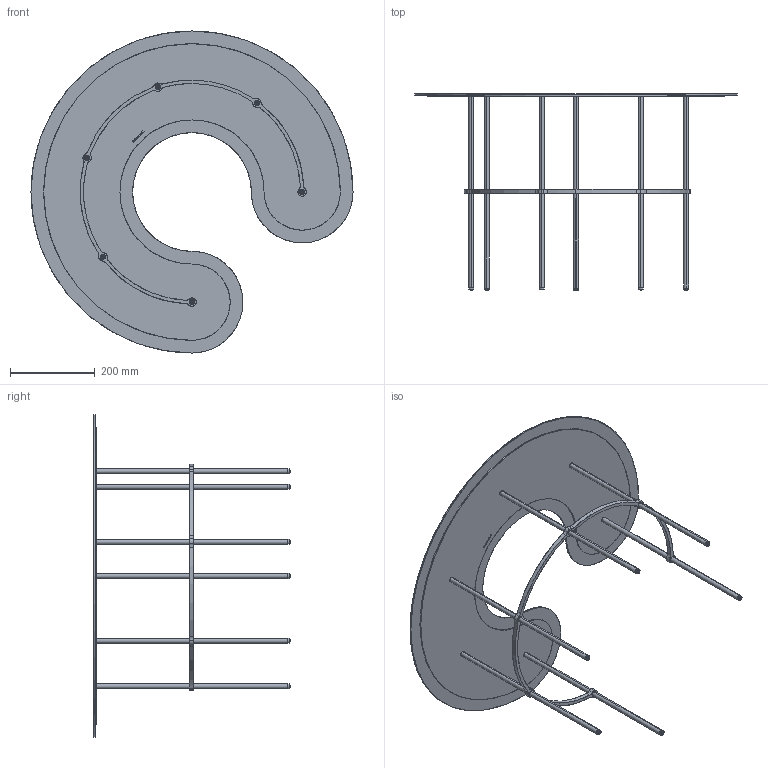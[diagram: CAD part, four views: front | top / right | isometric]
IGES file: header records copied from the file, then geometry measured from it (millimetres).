
Start section: SolidWorks IGES file using analytic representation for surfaces
Global section: file name: \\utenti\Dati Utenti\Tecnico\DC\2D - 3D per sito\3D\DeCastelli-3D-Scribble Comma.igs; native system: SolidWorks 2022; preprocessor: SolidWorks 2022; author: Simonep; date: 240729.120747; units: millimetre
Bounding box: 760 x 463.05 x 760 mm (x, y, z)
Surface area: 1093174.8 mm2 (no closed solid volume)
Topology: 0 solids, 0 shells, 154 faces, 2013 edges, 2001 vertices
Faces by surface type: revolution 84, bspline 70
